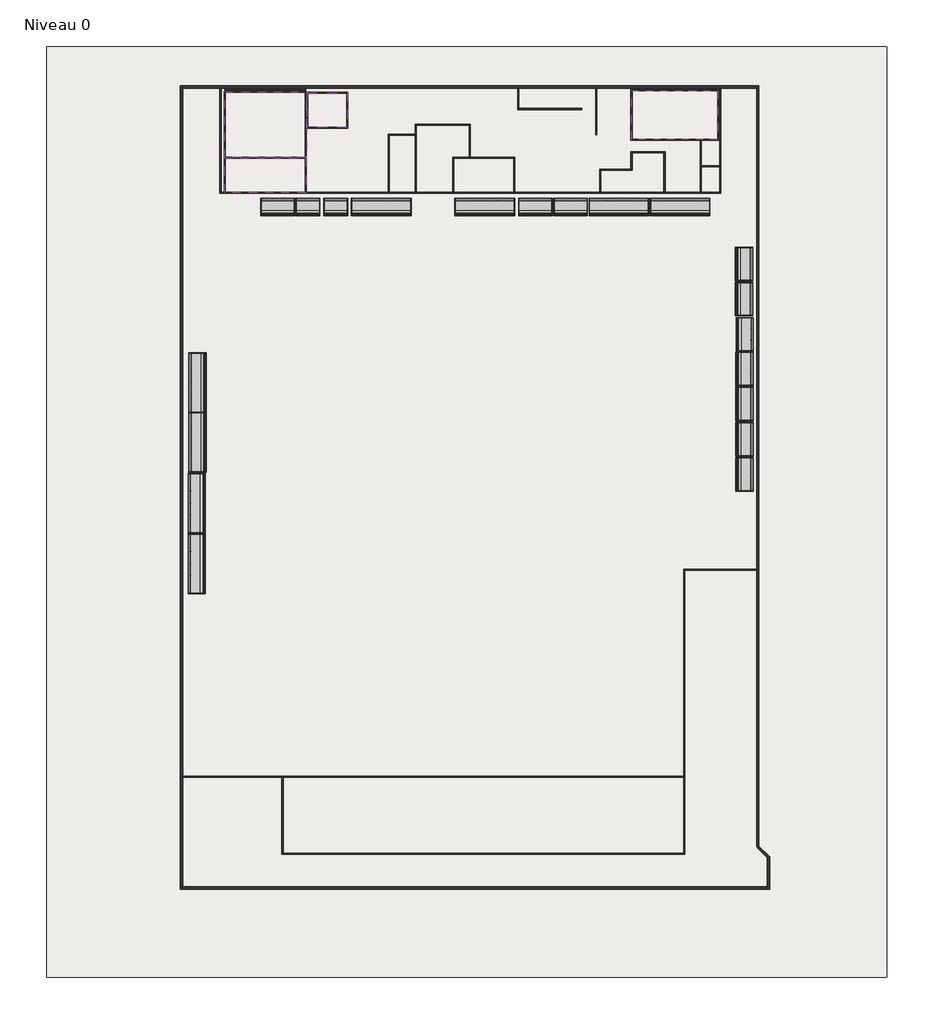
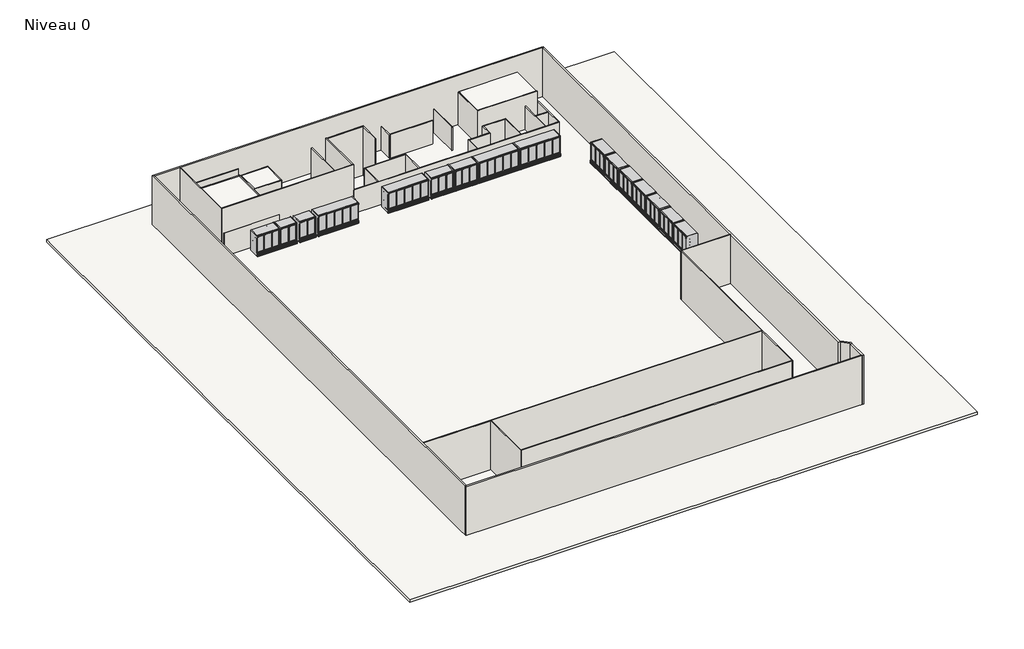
# One storey: 47 walls, 20 proxies, 5 slabs.
"""IFC4 building model written with IfcOpenShell, lengths in millimetres."""

from ifc_helpers import new_model, si_unit, frame, origin, origin_with_axes, place, context, project, spatial, polyline, outline, extrude, faceted_brep, transform, mapped, element, save
from components import proxy_1575mm_f0578ba2, proxy_2200mm_2b634e71, longueur_3910_mm_16bd9117

model = new_model("IFC4")

# Units and contexts
model_context = context("Model", 3, world=origin())
ifc_project = project(units=[si_unit("LENGTHUNIT", "METRE", prefix="MILLI")], contexts=[model_context])

# Site, building, storey
site = spatial("IfcSite", under=ifc_project)
building = spatial("IfcBuilding", under=site)
storey = spatial("IfcBuildingStorey", under=building, Name="Niveau 0", Elevation=0.0)

# Proxies
placement = place(None, origin())
proxy_1575mm_shape = proxy_1575mm_f0578ba2(model_context)
element("IfcBuildingElementProxy", 1, Name="Congélateur - Vertical deux portes : 1575mm", ObjectType="Congélateur - Vertical deux portes : 1575mm", at=placement, inside=storey, context=model_context, shape_type="MappedRepresentation", body=[
    mapped(proxy_1575mm_shape, transform((8034.4232046, -1064.6869778, 0.0), x_axis=(1.0, 0.0, 0.0), y_axis=(0.0, 1.0, 0.0), z_axis=(0.0, 0.0, 1.0))),
])
element("IfcBuildingElementProxy", 2, Name="Congélateur - Vertical deux portes : 1575mm", ObjectType="Congélateur - Vertical deux portes : 1575mm", at=placement, inside=storey, context=model_context, shape_type="MappedRepresentation", body=[
    mapped(proxy_1575mm_shape, transform((6208.3544836, -1064.6869758, 0.0), x_axis=(1.0, 0.0, 0.0), y_axis=(0.0, 1.0, 0.0), z_axis=(0.0, 0.0, 1.0))),
])
proxy_2200mm_shape = proxy_2200mm_2b634e71(model_context)
element("IfcBuildingElementProxy", 3, Name="Congélateur - Vertical trois portes : 2200mm", ObjectType="Congélateur - Vertical trois portes : 2200mm", at=placement, inside=storey, context=model_context, shape_type="MappedRepresentation", body=[
    mapped(proxy_2200mm_shape, transform((32875.5981916, -5951.7723901, 0.0), x_axis=(0.0, -1.0, 0.0), y_axis=(1.0, 0.0, 0.0), z_axis=(0.0, 0.0, 1.0))),
])
element("IfcBuildingElementProxy", 4, Name="Congélateur - Vertical trois portes : 2200mm", ObjectType="Congélateur - Vertical trois portes : 2200mm", at=placement, inside=storey, context=model_context, shape_type="MappedRepresentation", body=[
    mapped(proxy_2200mm_shape, transform((32875.5981916, -8240.2723901, 0.0), x_axis=(0.0, -1.0, 0.0), y_axis=(1.0, 0.0, 0.0), z_axis=(0.0, 0.0, 1.0))),
])
element("IfcBuildingElementProxy", 5, Name="Congélateur - Vertical trois portes : 2200mm", ObjectType="Congélateur - Vertical trois portes : 2200mm", at=placement, inside=storey, context=model_context, shape_type="MappedRepresentation", body=[
    mapped(proxy_2200mm_shape, transform((32921.8645864, -10558.1573992, 0.0), x_axis=(0.0, -1.0, 0.0), y_axis=(1.0, 0.0, 0.0), z_axis=(0.0, 0.0, 1.0))),
])
element("IfcBuildingElementProxy", 6, Name="Congélateur - Vertical trois portes : 2200mm", ObjectType="Congélateur - Vertical trois portes : 2200mm", at=placement, inside=storey, context=model_context, shape_type="MappedRepresentation", body=[
    mapped(proxy_2200mm_shape, transform((32915.8645864, -15092.8416299, 0.0), x_axis=(0.0, -1.0, 0.0), y_axis=(1.0, 0.0, 0.0), z_axis=(0.0, 0.0, 1.0))),
])
element("IfcBuildingElementProxy", 7, Name="Congélateur - Vertical trois portes : 2200mm", ObjectType="Congélateur - Vertical trois portes : 2200mm", at=placement, inside=storey, context=model_context, shape_type="MappedRepresentation", body=[
    mapped(proxy_2200mm_shape, transform((32915.8645864, -12814.4781323, 0.0), x_axis=(0.0, -1.0, 0.0), y_axis=(1.0, 0.0, 0.0), z_axis=(0.0, 0.0, 1.0))),
])
element("IfcBuildingElementProxy", 8, Name="Congélateur - Vertical trois portes : 2200mm", ObjectType="Congélateur - Vertical trois portes : 2200mm", at=placement, inside=storey, context=model_context, shape_type="MappedRepresentation", body=[
    mapped(proxy_2200mm_shape, transform((32915.8645864, -17418.5313334, 0.0), x_axis=(0.0, -1.0, 0.0), y_axis=(1.0, 0.0, 0.0), z_axis=(0.0, 0.0, 1.0))),
])
element("IfcBuildingElementProxy", 9, Name="Congélateur - Vertical trois portes : 2200mm", ObjectType="Congélateur - Vertical trois portes : 2200mm", at=placement, inside=storey, context=model_context, shape_type="MappedRepresentation", body=[
    mapped(proxy_2200mm_shape, transform((32915.8645864, -19716.8178381, 0.0), x_axis=(0.0, -1.0, 0.0), y_axis=(1.0, 0.0, 0.0), z_axis=(0.0, 0.0, 1.0))),
])
element("IfcBuildingElementProxy", 10, Name="Congélateur - Vertical trois portes : 2200mm", ObjectType="Congélateur - Vertical trois portes : 2200mm", at=placement, inside=storey, context=model_context, shape_type="MappedRepresentation", body=[
    mapped(proxy_2200mm_shape, transform((23689.1026583, -1064.6869758, 0.0), x_axis=(1.0, 0.0, 0.0), y_axis=(0.0, 1.0, 0.0), z_axis=(0.0, 0.0, 1.0))),
])
element("IfcBuildingElementProxy", 11, Name="Congélateur - Vertical trois portes : 2200mm", ObjectType="Congélateur - Vertical trois portes : 2200mm", at=placement, inside=storey, context=model_context, shape_type="MappedRepresentation", body=[
    mapped(proxy_2200mm_shape, transform((21385.1798447, -1064.6869758, 0.0), x_axis=(1.0, 0.0, 0.0), y_axis=(0.0, 1.0, 0.0), z_axis=(0.0, 0.0, 1.0))),
])
element("IfcBuildingElementProxy", 12, Name="Congélateur - Vertical trois portes : 2200mm", ObjectType="Congélateur - Vertical trois portes : 2200mm", at=placement, inside=storey, context=model_context, shape_type="MappedRepresentation", body=[
    mapped(proxy_2200mm_shape, transform((4533.5273713, -1064.6869758, 0.0), x_axis=(1.0, 0.0, 0.0), y_axis=(0.0, 1.0, 0.0), z_axis=(0.0, 0.0, 1.0))),
])
longueur_3910_mm_shape = longueur_3910_mm_16bd9117(model_context)
element("IfcBuildingElementProxy", 13, Name="Congélateur - Vertical cinq portes : Longueur 3910 mm", ObjectType="Congélateur - Vertical cinq portes : Longueur 3910 mm", at=placement, inside=storey, context=model_context, shape_type="MappedRepresentation", body=[
    mapped(longueur_3910_mm_shape, transform((-1869.6602284, -14604.1311112, 0.0), x_axis=(0.0, 1.0, 0.0), y_axis=(-1.0, 0.0, 0.0), z_axis=(0.0, 0.0, 1.0))),
])
element("IfcBuildingElementProxy", 14, Name="Congélateur - Vertical cinq portes : Longueur 3910 mm", ObjectType="Congélateur - Vertical cinq portes : Longueur 3910 mm", at=placement, inside=storey, context=model_context, shape_type="MappedRepresentation", body=[
    mapped(longueur_3910_mm_shape, transform((-1916.6602284, -22549.1311112, 0.0), x_axis=(0.0, 1.0, 0.0), y_axis=(-1.0, 0.0, 0.0), z_axis=(0.0, 0.0, 1.0))),
])
element("IfcBuildingElementProxy", 15, Name="Congélateur - Vertical cinq portes : Longueur 3910 mm", ObjectType="Congélateur - Vertical cinq portes : Longueur 3910 mm", at=placement, inside=storey, context=model_context, shape_type="MappedRepresentation", body=[
    mapped(longueur_3910_mm_shape, transform((-1916.6602284, -18599.1311112, 0.0), x_axis=(0.0, 1.0, 0.0), y_axis=(-1.0, 0.0, 0.0), z_axis=(0.0, 0.0, 1.0))),
])
element("IfcBuildingElementProxy", 16, Name="Congélateur - Vertical cinq portes : Longueur 3910 mm", ObjectType="Congélateur - Vertical cinq portes : Longueur 3910 mm", at=placement, inside=storey, context=model_context, shape_type="MappedRepresentation", body=[
    mapped(longueur_3910_mm_shape, transform((-1869.6602284, -10699.1311112, 0.0), x_axis=(0.0, 1.0, 0.0), y_axis=(-1.0, 0.0, 0.0), z_axis=(0.0, 0.0, 1.0))),
])
element("IfcBuildingElementProxy", 17, Name="Congélateur - Vertical cinq portes : Longueur 3910 mm", ObjectType="Congélateur - Vertical cinq portes : Longueur 3910 mm", at=placement, inside=storey, context=model_context, shape_type="MappedRepresentation", body=[
    mapped(longueur_3910_mm_shape, transform((30544.9984916, -1064.6869758, 0.0), x_axis=(1.0, 0.0, 0.0), y_axis=(0.0, 1.0, 0.0), z_axis=(0.0, 0.0, 1.0))),
])
element("IfcBuildingElementProxy", 18, Name="Congélateur - Vertical cinq portes : Longueur 3910 mm", ObjectType="Congélateur - Vertical cinq portes : Longueur 3910 mm", at=placement, inside=storey, context=model_context, shape_type="MappedRepresentation", body=[
    mapped(longueur_3910_mm_shape, transform((26548.4984916, -1064.6869758, 0.0), x_axis=(1.0, 0.0, 0.0), y_axis=(0.0, 1.0, 0.0), z_axis=(0.0, 0.0, 1.0))),
])
element("IfcBuildingElementProxy", 19, Name="Congélateur - Vertical cinq portes : Longueur 3910 mm", ObjectType="Congélateur - Vertical cinq portes : Longueur 3910 mm", at=placement, inside=storey, context=model_context, shape_type="MappedRepresentation", body=[
    mapped(longueur_3910_mm_shape, transform((11000.4232046, -1064.6869778, 0.0), x_axis=(1.0, 0.0, 0.0), y_axis=(0.0, 1.0, 0.0), z_axis=(0.0, 0.0, 1.0))),
])
element("IfcBuildingElementProxy", 20, Name="Congélateur - Vertical cinq portes : Longueur 3910 mm", ObjectType="Congélateur - Vertical cinq portes : Longueur 3910 mm", at=placement, inside=storey, context=model_context, shape_type="MappedRepresentation", body=[
    mapped(longueur_3910_mm_shape, transform((17773.4984916, -1064.6869758, 0.0), x_axis=(1.0, 0.0, 0.0), y_axis=(0.0, 1.0, 0.0), z_axis=(0.0, 0.0, 1.0))),
])

# Slabs
element("IfcSlab", 21, ObjectType="Dalle en béton - 80 mm", at=placement, inside=storey, context=model_context, shape_type="SweptSolid", body=[
    extrude(outline(polyline([(4762.9230743, 6961.0293187), (4762.9230743, 2664.8498995), (-582.5231103, 2664.8498995), (-582.5231103, 6961.0293187), (4762.9230743, 6961.0293187)])), frame((0.0, 0.0, 2320.0), z_axis=(0.0, 0.0, 1.0), x_axis=(1.0, 0.0, 0.0)), (0.0, 0.0, 1.0), 80.0),
])
element("IfcSlab", 22, ObjectType="Dalle en béton - 80 mm", at=placement, inside=storey, context=model_context, shape_type="SweptSolid", body=[
    extrude(outline(polyline([(4704.4778591, 2659.1504551), (4704.4778591, 350.3825602), (-595.5221409, 350.3825602), (-595.5221409, 2659.1504551), (4704.4778591, 2659.1504551)])), frame((0.0, 0.0, 2320.0), z_axis=(0.0, 0.0, 1.0), x_axis=(1.0, 0.0, 0.0)), (0.0, 0.0, 1.0), 80.0),
])
element("IfcSlab", 23, ObjectType="Dalle en béton - 80 mm", at=placement, inside=storey, context=model_context, shape_type="SweptSolid", body=[
    extrude(outline(polyline([(7436.8357351, 6906.9869007), (7436.8357351, 4649.8547692), (4783.9895416, 4649.8547692), (4783.9895416, 6906.9869007), (7436.8357351, 6906.9869007)])), frame((0.0, 0.0, 2320.0), z_axis=(0.0, 0.0, 1.0), x_axis=(1.0, 0.0, 0.0)), (0.0, 0.0, 1.0), 80.0),
])
element("IfcSlab", 24, ObjectType="Dalle en béton - 80 mm", at=placement, inside=storey, context=model_context, shape_type="SweptSolid", body=[
    extrude(outline(polyline([(31650.7937625, 7022.1870376), (31650.7937625, 3858.9462887), (26024.789803, 3858.9462887), (26024.789803, 7022.1870376), (31650.7937625, 7022.1870376)])), frame((0.0, 0.0, 3420.0), z_axis=(0.0, 0.0, 1.0), x_axis=(1.0, 0.0, 0.0)), (0.0, 0.0, 1.0), 80.0),
])
element("IfcSlab", 25, ObjectType="Dalle en béton - 250 mm", at=placement, inside=storey, context=model_context, shape_type="SweptSolid", body=[
    extrude(outline(polyline([(42723.8258446, 9921.1519694), (42723.8258446, -50960.7470362), (-12240.8928045, -50960.7470362), (-12240.8928045, 9921.1519694), (42723.8258446, 9921.1519694)])), frame((0.0, 0.0, -250.0), z_axis=(0.0, 0.0, 1.0), x_axis=(1.0, 0.0, 0.0)), (0.0, 0.0, 1.0), 250.0),
])

# Walls
element("IfcWall", 26, ObjectType="Générique - Int. 70 mm", at=placement, inside=storey, context=model_context, shape_type="Brep", body=[
    faceted_brep([(4781.8357336, 6871.9869007, 0.0), (4851.8357336, 6871.9869007, 0.0), (7401.8357351, 6871.9869007, 0.0), (7471.8357351, 6871.9869007, 0.0), (7471.8357351, 6871.9869007, 2400.0), (7401.8357351, 6871.9869007, 2400.0), (4851.8357336, 6871.9869007, 2400.0), (4781.8357336, 6871.9869007, 2400.0), (4781.8357336, 6941.9869007, 0.0), (4781.8357336, 6941.9869007, 2400.0), (7471.8357351, 6941.9869007, 2400.0), (7471.8357351, 6941.9869007, 0.0)], [[[0, 1, 2, 3, 4, 5, 6, 7]], [[8, 9, 10, 11]], [[3, 2, 1, 0, 8, 11]], [[7, 6, 5, 4, 10, 9]], [[4, 3, 11, 10]], [[0, 7, 9, 8]]]),
])
element("IfcWall", 27, ObjectType="Générique - Int. 70 mm", at=placement, inside=storey, context=model_context, shape_type="Brep", body=[
    faceted_brep([(7401.8357351, 6871.9869007, 0.0), (7401.8357351, 4658.2700819, 0.0), (7401.8357351, 4588.2700819, 0.0), (7401.8357351, 4588.2700819, 2400.0), (7401.8357351, 4658.2700819, 2400.0), (7401.8357351, 6871.9869007, 2400.0), (7471.8357351, 6871.9869007, 0.0), (7471.8357351, 6871.9869007, 2400.0), (7471.8357351, 4588.2700819, 2400.0), (7471.8357351, 4588.2700819, 0.0)], [[[0, 1, 2, 3, 4, 5]], [[6, 7, 8, 9]], [[2, 1, 0, 6, 9]], [[5, 4, 3, 8, 7]], [[0, 5, 7, 6]], [[3, 2, 9, 8]]]),
])
element("IfcWall", 28, ObjectType="Générique - Int. 70 mm", at=placement, inside=storey, context=model_context, shape_type="Brep", body=[
    faceted_brep([(7401.8357351, 4658.2700819, 0.0), (4851.8357336, 4658.2700819, 0.0), (4781.8357336, 4658.2700819, 0.0), (4781.8357336, 4658.2700819, 2400.0), (4851.8357336, 4658.2700819, 2400.0), (7401.8357351, 4658.2700819, 2400.0), (7401.8357351, 4588.2700819, 0.0), (7401.8357351, 4588.2700819, 2400.0), (4781.8357336, 4588.2700819, 2400.0), (4781.8357336, 4588.2700819, 0.0)], [[[0, 1, 2, 3, 4, 5]], [[6, 7, 8, 9]], [[2, 1, 0, 6, 9]], [[5, 4, 3, 8, 7]], [[0, 5, 7, 6]], [[3, 2, 9, 8]]]),
])
element("IfcWall", 29, ObjectType="Générique - Int. 70 mm", at=placement, inside=storey, context=model_context, shape_type="SweptSolid", body=[
    extrude(outline(polyline([(4851.8357336, 6871.9869007), (4851.8357336, 4658.2700819), (4781.8357336, 4658.2700819), (4781.8357336, 6871.9869007), (4851.8357336, 6871.9869007)])), origin_with_axes(), (0.0, 0.0, 1.0), 2400.0),
])
element("IfcWall", 30, ObjectType="Générique - Ext. 150 mm", at=placement, inside=storey, context=model_context, shape_type="Brep", body=[
    faceted_brep([(34191.4818514, 7357.9869007, 0.0), (34191.4818514, 7207.9869007, 0.0), (34191.4818514, -42428.4030431, 0.0), (34191.4818514, -42428.4030431, 5000.0), (34191.4818514, 7207.9869007, 5000.0), (34191.4818514, 7357.9869007, 5000.0), (34341.4818514, 7357.9869007, 0.0), (34341.4818514, 7357.9869007, 5000.0), (34341.4818514, 7207.9869007, 5000.0), (34341.4818514, -42366.2710087, 5000.0), (34341.4818514, -42578.4030431, 5000.0), (34341.4818514, -42578.4030431, 0.0), (34341.4818514, -42366.2710087, 0.0)], [[[0, 1, 2, 3, 4, 5]], [[6, 7, 8, 9, 10, 11, 12]], [[2, 1, 0, 6, 12, 11]], [[3, 2, 11, 10]], [[0, 5, 7, 6]], [[5, 4, 8, 7]], [[4, 3, 10, 9, 8]]]),
])
element("IfcWall", 31, ObjectType="Générique - Ext. 150 mm", at=placement, inside=storey, context=model_context, shape_type="Brep", body=[
    faceted_brep([(34341.4818514, -42578.4030431, 0.0), (34898.5886326, -43135.5098242, 0.0), (35048.5886326, -43285.5098242, 0.0), (35048.5886326, -43285.5098242, 5000.0), (34898.5886326, -43135.5098242, 5000.0), (34343.774089, -42580.6952807, 5000.0), (34341.4818514, -42578.4030431, 5000.0), (34341.4818514, -42366.2710087, 0.0), (34341.4818514, -42366.2710087, 5000.0), (34343.774089, -42368.5632464, 5000.0), (35048.5886326, -43073.3777899, 5000.0), (35048.5886326, -43073.3777899, 0.0)], [[[0, 1, 2, 3, 4, 5, 6]], [[7, 8, 9, 10, 11]], [[2, 1, 0, 7, 11]], [[0, 6, 8, 7]], [[3, 2, 11, 10]], [[5, 4, 3, 10, 9]], [[6, 5, 9, 8]]]),
])
element("IfcWall", 32, ObjectType="Générique - Ext. 150 mm", at=placement, inside=storey, context=model_context, shape_type="Brep", body=[
    faceted_brep([(34898.5886326, -43135.5098242, 0.0), (34898.5886326, -45029.4438071, 0.0), (34898.5886326, -45179.4438071, 0.0), (34898.5886326, -45179.4438071, 5000.0), (34898.5886326, -45029.4438071, 5000.0), (34898.5886326, -43135.5098242, 5000.0), (35048.5886326, -43285.5098242, 0.0), (35048.5886326, -43285.5098242, 5000.0), (35048.5886326, -45179.4438071, 5000.0), (35048.5886326, -45179.4438071, 0.0)], [[[0, 1, 2, 3, 4, 5]], [[6, 7, 8, 9]], [[2, 1, 0, 6, 9]], [[5, 4, 3, 8, 7]], [[0, 5, 7, 6]], [[3, 2, 9, 8]]]),
])
element("IfcWall", 33, ObjectType="Générique - Ext. 150 mm", at=placement, inside=storey, context=model_context, shape_type="Brep", body=[
    faceted_brep([(34898.5886326, -45029.4438071, 0.0), (-3335.5221409, -45029.4438071, 0.0), (-3485.5221409, -45029.4438071, 0.0), (-3485.5221409, -45029.4438071, 5000.0), (-3335.5221409, -45029.4438071, 5000.0), (34898.5886326, -45029.4438071, 5000.0), (34898.5886326, -45179.4438071, 0.0), (34898.5886326, -45179.4438071, 5000.0), (-3485.5221409, -45179.4438071, 5000.0), (-3485.5221409, -45179.4438071, 0.0)], [[[0, 1, 2, 3, 4, 5]], [[6, 7, 8, 9]], [[2, 1, 0, 6, 9]], [[5, 4, 3, 8, 7]], [[0, 5, 7, 6]], [[3, 2, 9, 8]]]),
])
element("IfcWall", 34, ObjectType="Générique - Ext. 150 mm", at=placement, inside=storey, context=model_context, shape_type="Brep", body=[
    faceted_brep([(-3335.5221409, -45029.4438071, 0.0), (-3335.5221409, 7207.9869007, 0.0), (-3335.5221409, 7357.9869007, 0.0), (-3335.5221409, 7357.9869007, 5000.0), (-3335.5221409, 7207.9869007, 5000.0), (-3335.5221409, -45029.4438071, 5000.0), (-3485.5221409, -45029.4438071, 0.0), (-3485.5221409, -45029.4438071, 5000.0), (-3485.5221409, 7357.9869007, 5000.0), (-3485.5221409, 7357.9869007, 0.0)], [[[0, 1, 2, 3, 4, 5]], [[6, 7, 8, 9]], [[2, 1, 0, 6, 9]], [[5, 4, 3, 8, 7]], [[0, 5, 7, 6]], [[3, 2, 9, 8]]]),
])
element("IfcWall", 35, ObjectType="Générique - Int. 70 mm", at=placement, inside=storey, context=model_context, shape_type="SweptSolid", body=[
    extrude(outline(polyline([(4704.4778591, 7091.9869007), (-595.5221409, 7091.9869007), (-595.5221409, 7161.9869007), (4704.4778591, 7161.9869007), (4704.4778591, 7091.9869007)])), origin_with_axes(), (0.0, 0.0, 1.0), 3000.0),
])
element("IfcWall", 36, ObjectType="Générique - Int. 70 mm", at=placement, inside=storey, context=model_context, shape_type="Brep", body=[
    faceted_brep([(4669.4778591, 6926.0293187, 0.0), (4669.4778591, 2694.1504551, 0.0), (4669.4778591, 2624.1504551, 0.0), (4669.4778591, 385.3825602, 0.0), (4669.4778591, 385.3825602, 2400.0), (4669.4778591, 2624.1504551, 2400.0), (4669.4778591, 2694.1504551, 2400.0), (4669.4778591, 6926.0293187, 2400.0), (4739.4778591, 6926.0293187, 0.0), (4739.4778591, 6926.0293187, 2400.0), (4739.4778591, 385.3825602, 2400.0), (4739.4778591, 385.3825602, 0.0)], [[[0, 1, 2, 3, 4, 5, 6, 7]], [[8, 9, 10, 11]], [[3, 2, 1, 0, 8, 11]], [[7, 6, 5, 4, 10, 9]], [[0, 7, 9, 8]], [[4, 3, 11, 10]]]),
])
element("IfcWall", 37, ObjectType="Générique - Int. 70 mm", at=placement, inside=storey, context=model_context, shape_type="SweptSolid", body=[
    extrude(outline(polyline([(-560.5221409, 2694.1504551), (4669.4778591, 2694.1504551), (4669.4778591, 2624.1504551), (-560.5221409, 2624.1504551), (-560.5221409, 2694.1504551)])), origin_with_axes(), (0.0, 0.0, 1.0), 2400.0),
])
element("IfcWall", 38, ObjectType="Générique - Int. 70 mm", at=placement, inside=storey, context=model_context, shape_type="Brep", body=[
    faceted_brep([(4739.4778591, 6996.0293187, 0.0), (-560.5221409, 6996.0293187, 0.0), (-560.5221409, 6996.0293187, 2400.0), (4739.4778591, 6996.0293187, 2400.0), (4739.4778591, 6926.0293187, 0.0), (4739.4778591, 6926.0293187, 2400.0), (4669.4778591, 6926.0293187, 2400.0), (-560.5221409, 6926.0293187, 2400.0), (-560.5221409, 6926.0293187, 0.0), (4669.4778591, 6926.0293187, 0.0)], [[[0, 1, 2, 3]], [[4, 5, 6, 7, 8, 9]], [[1, 0, 4, 9, 8]], [[3, 2, 7, 6, 5]], [[2, 1, 8, 7]], [[0, 3, 5, 4]]]),
])
element("IfcWall", 39, ObjectType="Générique - Int. 70 mm", at=placement, inside=storey, context=model_context, shape_type="Brep", body=[
    faceted_brep([(-630.5221409, 6996.0293187, 0.0), (-630.5221409, 315.3825602, 0.0), (-630.5221409, 315.3825602, 2400.0), (-630.5221409, 6996.0293187, 2400.0), (-560.5221409, 6996.0293187, 0.0), (-560.5221409, 6996.0293187, 2400.0), (-560.5221409, 6926.0293187, 2400.0), (-560.5221409, 2694.1504551, 2400.0), (-560.5221409, 2624.1504551, 2400.0), (-560.5221409, 385.3825602, 2400.0), (-560.5221409, 315.3825602, 2400.0), (-560.5221409, 315.3825602, 0.0), (-560.5221409, 385.3825602, 0.0), (-560.5221409, 2624.1504551, 0.0), (-560.5221409, 2694.1504551, 0.0), (-560.5221409, 6926.0293187, 0.0)], [[[0, 1, 2, 3]], [[4, 5, 6, 7, 8, 9, 10, 11, 12, 13, 14, 15]], [[1, 0, 4, 15, 14, 13, 12, 11]], [[3, 2, 10, 9, 8, 7, 6, 5]], [[0, 3, 5, 4]], [[2, 1, 11, 10]]]),
])
element("IfcWall", 40, ObjectType="Générique - Ext. 150 mm", at=placement, inside=storey, context=model_context, shape_type="SweptSolid", body=[
    extrude(outline(polyline([(34191.4818514, 7207.9869007), (-3335.5221409, 7207.9869007), (-3335.5221409, 7357.9869007), (34191.4818514, 7357.9869007), (34191.4818514, 7207.9869007)])), origin_with_axes(), (0.0, 0.0, 1.0), 5000.0),
])
element("IfcWall", 41, ObjectType="Générique - Int. 70 mm", at=placement, inside=storey, context=model_context, shape_type="Brep", body=[
    faceted_brep([(-560.5221409, 315.3825602, 0.0), (4739.4778591, 315.3825602, 0.0), (4739.4778591, 315.3825602, 2400.0), (-560.5221409, 315.3825602, 2400.0), (-560.5221409, 385.3825602, 0.0), (-560.5221409, 385.3825602, 2400.0), (4669.4778591, 385.3825602, 2400.0), (4739.4778591, 385.3825602, 2400.0), (4739.4778591, 385.3825602, 0.0), (4669.4778591, 385.3825602, 0.0)], [[[0, 1, 2, 3]], [[4, 5, 6, 7, 8, 9]], [[1, 0, 4, 9, 8]], [[3, 2, 7, 6, 5]], [[0, 3, 5, 4]], [[2, 1, 8, 7]]]),
])
element("IfcWall", 42, ObjectType="Générique - Int. 70 mm", at=placement, inside=storey, context=model_context, shape_type="Brep", body=[
    faceted_brep([(10171.6921207, 385.3825602, 0.0), (10171.6921207, 4130.5786628, 0.0), (10171.6921207, 4200.5786628, 0.0), (10171.6921207, 4200.5786628, 2400.0), (10171.6921207, 4200.5786628, 5000.0), (10171.6921207, 385.3825602, 5000.0), (10101.6921207, 385.3825602, 0.0), (10101.6921207, 385.3825602, 5000.0), (10101.6921207, 4200.5786628, 5000.0), (10101.6921207, 4200.5786628, 0.0)], [[[0, 1, 2, 3, 4, 5]], [[6, 7, 8, 9]], [[2, 1, 0, 6, 9]], [[5, 4, 8, 7]], [[4, 3, 2, 9, 8]], [[0, 5, 7, 6]]]),
])
element("IfcWall", 43, ObjectType="Générique - Int. 70 mm", at=placement, inside=storey, context=model_context, shape_type="SweptSolid", body=[
    extrude(outline(polyline([(11869.4012391, 4130.5786628), (10171.6921207, 4130.5786628), (10171.6921207, 4200.5786628), (11869.4012391, 4200.5786628), (11869.4012391, 4130.5786628)])), origin_with_axes(), (0.0, 0.0, 1.0), 2400.0),
])
element("IfcWall", 44, ObjectType="Générique - Int. 70 mm", at=placement, inside=storey, context=model_context, shape_type="Brep", body=[
    faceted_brep([(-897.656034, 7207.9869007, 0.0), (-897.656034, 315.3825602, 0.0), (-897.656034, 315.3825602, 5000.0), (-897.656034, 7207.9869007, 5000.0), (-827.656034, 7207.9869007, 0.0), (-827.656034, 7207.9869007, 5000.0), (-827.656034, 385.3825602, 5000.0), (-827.656034, 315.3825602, 5000.0), (-827.656034, 315.3825602, 0.0), (-827.656034, 385.3825602, 0.0)], [[[0, 1, 2, 3]], [[4, 5, 6, 7, 8, 9]], [[1, 0, 4, 9, 8]], [[3, 2, 7, 6, 5]], [[0, 3, 5, 4]], [[2, 1, 8, 7]]]),
])
element("IfcWall", 45, ObjectType="Générique - Int. 70 mm", at=placement, inside=storey, context=model_context, shape_type="Brep", body=[
    faceted_brep([(-827.656034, 315.3825602, 0.0), (11939.4012391, 315.3825602, 0.0), (11939.4012391, 315.3825602, 2400.0), (11939.4012391, 315.3825602, 5000.0), (-827.656034, 315.3825602, 5000.0), (-827.656034, 385.3825602, 0.0), (-827.656034, 385.3825602, 5000.0), (10101.6921207, 385.3825602, 5000.0), (10171.6921207, 385.3825602, 5000.0), (11869.4012391, 385.3825602, 5000.0), (11939.4012391, 385.3825602, 5000.0), (11939.4012391, 385.3825602, 2400.0), (11939.4012391, 385.3825602, 0.0), (11869.4012391, 385.3825602, 0.0), (10171.6921207, 385.3825602, 0.0), (10101.6921207, 385.3825602, 0.0)], [[[0, 1, 2, 3, 4]], [[5, 6, 7, 8, 9, 10, 11, 12, 13, 14, 15]], [[1, 0, 5, 15, 14, 13, 12]], [[4, 3, 10, 9, 8, 7, 6]], [[0, 4, 6, 5]], [[1, 12, 11, 10, 3, 2]]]),
])
element("IfcWall", 46, ObjectType="Générique - Int. 70 mm", at=placement, inside=storey, context=model_context, shape_type="Brep", body=[
    faceted_brep([(11939.4012391, 385.3825602, 5000.0), (11939.4012391, 385.3825602, 0.0), (11939.4012391, 4770.8605197, 0.0), (11939.4012391, 4840.8605197, 0.0), (11939.4012391, 4840.8605197, 5000.0), (11939.4012391, 4770.8605197, 5000.0), (11869.4012391, 385.3825602, 0.0), (11869.4012391, 385.3825602, 5000.0), (11869.4012391, 4840.8605197, 5000.0), (11869.4012391, 4840.8605197, 0.0), (11869.4012391, 4200.5786628, 0.0), (11869.4012391, 4130.5786628, 0.0)], [[[0, 1, 2, 3, 4, 5]], [[6, 7, 8, 9, 10, 11]], [[3, 2, 1, 6, 11, 10, 9]], [[0, 5, 4, 8, 7]], [[4, 3, 9, 8]], [[0, 7, 6, 1]]]),
])
element("IfcWall", 47, ObjectType="Générique - Int. 70 mm", at=placement, inside=storey, context=model_context, shape_type="Brep", body=[
    faceted_brep([(11939.4012391, 4770.8605197, 0.0), (15407.3618166, 4770.8605197, 0.0), (15477.3618166, 4770.8605197, 0.0), (15477.3618166, 4770.8605197, 5000.0), (15407.3618166, 4770.8605197, 5000.0), (11939.4012391, 4770.8605197, 5000.0), (11939.4012391, 4840.8605197, 0.0), (11939.4012391, 4840.8605197, 5000.0), (15477.3618166, 4840.8605197, 5000.0), (15477.3618166, 4840.8605197, 0.0)], [[[0, 1, 2, 3, 4, 5]], [[6, 7, 8, 9]], [[2, 1, 0, 6, 9]], [[5, 4, 3, 8, 7]], [[0, 5, 7, 6]], [[3, 2, 9, 8]]]),
])
element("IfcWall", 48, ObjectType="Générique - Int. 70 mm", at=placement, inside=storey, context=model_context, shape_type="SweptSolid", body=[
    extrude(outline(polyline([(15407.3618166, 2694.1504551), (15407.3618166, 4770.8605197), (15477.3618166, 4770.8605197), (15477.3618166, 2694.1504551), (15407.3618166, 2694.1504551)])), origin_with_axes(), (0.0, 0.0, 1.0), 5000.0),
])
element("IfcWall", 49, ObjectType="Générique - Int. 70 mm", at=placement, inside=storey, context=model_context, shape_type="Brep", body=[
    faceted_brep([(11939.4012391, 315.3825602, 0.0), (31867.3467757, 315.3825602, 0.0), (31867.3467757, 315.3825602, 2400.0), (11939.4012391, 315.3825602, 2400.0), (11939.4012391, 385.3825602, 0.0), (11939.4012391, 385.3825602, 2400.0), (14318.4222727, 385.3825602, 2400.0), (14388.4222727, 385.3825602, 2400.0), (18301.7420196, 385.3825602, 2400.0), (18371.7420196, 385.3825602, 2400.0), (23940.0098006, 385.3825602, 2400.0), (24010.0098006, 385.3825602, 2400.0), (28136.6427592, 385.3825602, 2400.0), (28206.6427592, 385.3825602, 2400.0), (30519.9080622, 385.3825602, 2400.0), (30589.9080622, 385.3825602, 2400.0), (31797.3467757, 385.3825602, 2400.0), (31867.3467757, 385.3825602, 2400.0), (31867.3467757, 385.3825602, 0.0), (31797.3467757, 385.3825602, 0.0), (30589.9080622, 385.3825602, 0.0), (30519.9080622, 385.3825602, 0.0), (28206.6427592, 385.3825602, 0.0), (28136.6427592, 385.3825602, 0.0), (24010.0098006, 385.3825602, 0.0), (23940.0098006, 385.3825602, 0.0), (18371.7420196, 385.3825602, 0.0), (18301.7420196, 385.3825602, 0.0), (14388.4222727, 385.3825602, 0.0), (14318.4222727, 385.3825602, 0.0)], [[[0, 1, 2, 3]], [[4, 5, 6, 7, 8, 9, 10, 11, 12, 13, 14, 15, 16, 17, 18, 19, 20, 21, 22, 23, 24, 25, 26, 27, 28, 29]], [[1, 0, 4, 29, 28, 27, 26, 25, 24, 23, 22, 21, 20, 19, 18]], [[3, 2, 17, 16, 15, 14, 13, 12, 11, 10, 9, 8, 7, 6, 5]], [[0, 3, 5, 4]], [[2, 1, 18, 17]]]),
])
element("IfcWall", 50, ObjectType="Générique - Int. 70 mm", at=placement, inside=storey, context=model_context, shape_type="Brep", body=[
    faceted_brep([(31867.3467757, 385.3825602, 0.0), (31867.3467757, 7207.9869007, 0.0), (31867.3467757, 7207.9869007, 2400.0), (31867.3467757, 385.3825602, 2400.0), (31797.3467757, 385.3825602, 0.0), (31797.3467757, 385.3825602, 2400.0), (31797.3467757, 2066.5510206, 2400.0), (31797.3467757, 2136.5510206, 2400.0), (31797.3467757, 7207.9869007, 2400.0), (31797.3467757, 7207.9869007, 0.0), (31797.3467757, 2136.5510206, 0.0), (31797.3467757, 2066.5510206, 0.0)], [[[0, 1, 2, 3]], [[4, 5, 6, 7, 8, 9, 10, 11]], [[1, 0, 4, 11, 10, 9]], [[3, 2, 8, 7, 6, 5]], [[0, 3, 5, 4]], [[2, 1, 9, 8]]]),
])
element("IfcWall", 51, ObjectType="Générique - Int. 70 mm", at=placement, inside=storey, context=model_context, shape_type="Brep", body=[
    faceted_brep([(18371.7420196, 385.3825602, 0.0), (18371.7420196, 2694.1504551, 0.0), (18371.7420196, 2694.1504551, 2400.0), (18371.7420196, 385.3825602, 2400.0), (18301.7420196, 385.3825602, 0.0), (18301.7420196, 385.3825602, 2400.0), (18301.7420196, 2624.1504551, 2400.0), (18301.7420196, 2694.1504551, 2400.0), (18301.7420196, 2694.1504551, 0.0), (18301.7420196, 2624.1504551, 0.0)], [[[0, 1, 2, 3]], [[4, 5, 6, 7, 8, 9]], [[1, 0, 4, 9, 8]], [[3, 2, 7, 6, 5]], [[0, 3, 5, 4]], [[2, 1, 8, 7]]]),
])
element("IfcWall", 52, ObjectType="Générique - Int. 70 mm", at=placement, inside=storey, context=model_context, shape_type="Brep", body=[
    faceted_brep([(18301.7420196, 2694.1504551, 0.0), (15477.3618166, 2694.1504551, 0.0), (15407.3618166, 2694.1504551, 0.0), (14318.4222727, 2694.1504551, 0.0), (14318.4222727, 2694.1504551, 2400.0), (18301.7420196, 2694.1504551, 2400.0), (18301.7420196, 2624.1504551, 0.0), (18301.7420196, 2624.1504551, 2400.0), (14388.4222727, 2624.1504551, 2400.0), (14318.4222727, 2624.1504551, 2400.0), (14318.4222727, 2624.1504551, 0.0), (14388.4222727, 2624.1504551, 0.0)], [[[0, 1, 2, 3, 4, 5]], [[6, 7, 8, 9, 10, 11]], [[3, 2, 1, 0, 6, 11, 10]], [[5, 4, 9, 8, 7]], [[0, 5, 7, 6]], [[4, 3, 10, 9]]]),
])
element("IfcWall", 53, ObjectType="Générique - Int. 70 mm", at=placement, inside=storey, context=model_context, shape_type="SweptSolid", body=[
    extrude(outline(polyline([(14318.4222727, 385.3825602), (14318.4222727, 2624.1504551), (14388.4222727, 2624.1504551), (14388.4222727, 385.3825602), (14318.4222727, 385.3825602)])), origin_with_axes(), (0.0, 0.0, 1.0), 2400.0),
])
element("IfcWall", 54, ObjectType="Générique - Int. 70 mm", at=placement, inside=storey, context=model_context, shape_type="SweptSolid", body=[
    extrude(outline(polyline([(23672.4733516, 4165.5786628), (23672.4733516, 7207.9869007), (23742.4733516, 7207.9869007), (23742.4733516, 4165.5786628), (23672.4733516, 4165.5786628)])), origin_with_axes(), (0.0, 0.0, 1.0), 2400.0),
])
element("IfcWall", 55, ObjectType="Générique - Int. 70 mm", at=placement, inside=storey, context=model_context, shape_type="Brep", body=[
    faceted_brep([(25979.4794907, 7092.1870376, 0.0), (25979.4794907, 3851.6847304, 0.0), (25979.4794907, 3851.6847304, 3420.0), (25979.4794907, 3858.9462887, 3420.0), (25979.4794907, 7022.1870376, 3420.0), (25979.4794907, 7092.1870376, 3420.0), (26049.4794907, 7092.1870376, 0.0), (26049.4794907, 7092.1870376, 3420.0), (26049.4794907, 7022.1870376, 3420.0), (26049.4794907, 3858.9462887, 3420.0), (26049.4794907, 3851.6847304, 3420.0), (26049.4794907, 3851.6847304, 0.0), (26049.4794907, 7022.1870376, 0.0), (26024.789803, 3851.6847304, 3420.0), (26024.789803, 7092.1870376, 3420.0), (26024.789803, 3858.9462887, 3420.0), (26024.789803, 7022.1870376, 3420.0)], [[[0, 1, 2, 3, 4, 5]], [[6, 7, 8, 9, 10, 11, 12]], [[1, 0, 6, 12, 11]], [[2, 1, 11, 10, 13]], [[0, 5, 14, 7, 6]], [[13, 10, 9, 15]], [[3, 2, 13, 15]], [[8, 7, 14, 16]], [[4, 3, 15, 16]], [[5, 4, 16, 14]], [[15, 9, 8, 16]]]),
])
element("IfcWall", 56, ObjectType="Générique - Int. 70 mm", at=placement, inside=storey, context=model_context, shape_type="Brep", body=[
    faceted_brep([(18578.5569281, 7207.9869007, 0.0), (18578.5569281, 5802.8129421, 0.0), (18578.5569281, 5802.8129421, 2400.0), (18578.5569281, 7207.9869007, 2400.0), (18648.5569281, 7207.9869007, 0.0), (18648.5569281, 7207.9869007, 2400.0), (18648.5569281, 5872.8129421, 2400.0), (18648.5569281, 5802.8129421, 2400.0), (18648.5569281, 5802.8129421, 0.0), (18648.5569281, 5872.8129421, 0.0)], [[[0, 1, 2, 3]], [[4, 5, 6, 7, 8, 9]], [[1, 0, 4, 9, 8]], [[3, 2, 7, 6, 5]], [[0, 3, 5, 4]], [[2, 1, 8, 7]]]),
])
element("IfcWall", 57, ObjectType="Générique - Int. 70 mm", at=placement, inside=storey, context=model_context, shape_type="SweptSolid", body=[
    extrude(outline(polyline([(22770.9187081, 5802.8129421), (18648.5569281, 5802.8129421), (18648.5569281, 5872.8129421), (22770.9187081, 5872.8129421), (22770.9187081, 5802.8129421)])), origin_with_axes(), (0.0, 0.0, 1.0), 2400.0),
])
element("IfcWall", 58, ObjectType="Générique - Int. 70 mm", at=placement, inside=storey, context=model_context, shape_type="Brep", body=[
    faceted_brep([(31713.9214948, 3851.6847304, 0.0), (31643.9214948, 3851.6847304, 0.0), (26049.4794907, 3851.6847304, 0.0), (25979.4794907, 3851.6847304, 0.0), (25979.4794907, 3851.6847304, 3420.0), (25979.4794907, 3851.6847304, 3500.0), (31713.9214948, 3851.6847304, 3500.0), (31713.9214948, 3851.6847304, 3420.0), (31713.9214948, 3781.6847304, 0.0), (31713.9214948, 3781.6847304, 3500.0), (25979.4794907, 3781.6847304, 3500.0), (25979.4794907, 3781.6847304, 0.0), (30519.9080622, 3781.6847304, 0.0), (30589.9080622, 3781.6847304, 0.0)], [[[0, 1, 2, 3, 4, 5, 6, 7]], [[8, 9, 10, 11, 12, 13]], [[3, 2, 1, 0, 8, 13, 12, 11]], [[6, 5, 10, 9]], [[5, 4, 3, 11, 10]], [[0, 7, 6, 9, 8]]]),
])
element("IfcWall", 59, ObjectType="Générique - Int. 70 mm", at=placement, inside=storey, context=model_context, shape_type="Brep", body=[
    faceted_brep([(24010.0098006, 385.3825602, 0.0), (24010.0098006, 1820.9632483, 0.0), (24010.0098006, 1890.9632483, 0.0), (24010.0098006, 1890.9632483, 2400.0), (24010.0098006, 1820.9632483, 2400.0), (24010.0098006, 385.3825602, 2400.0), (23940.0098006, 385.3825602, 0.0), (23940.0098006, 385.3825602, 2400.0), (23940.0098006, 1890.9632483, 2400.0), (23940.0098006, 1890.9632483, 0.0)], [[[0, 1, 2, 3, 4, 5]], [[6, 7, 8, 9]], [[2, 1, 0, 6, 9]], [[5, 4, 3, 8, 7]], [[0, 5, 7, 6]], [[3, 2, 9, 8]]]),
])
element("IfcWall", 60, ObjectType="Générique - Int. 70 mm", at=placement, inside=storey, context=model_context, shape_type="Brep", body=[
    faceted_brep([(24010.0098006, 1820.9632483, 0.0), (26049.4794907, 1820.9632483, 0.0), (26049.4794907, 1820.9632483, 2400.0), (24010.0098006, 1820.9632483, 2400.0), (24010.0098006, 1890.9632483, 0.0), (24010.0098006, 1890.9632483, 2400.0), (25979.4794907, 1890.9632483, 2400.0), (26049.4794907, 1890.9632483, 2400.0), (26049.4794907, 1890.9632483, 0.0), (25979.4794907, 1890.9632483, 0.0)], [[[0, 1, 2, 3]], [[4, 5, 6, 7, 8, 9]], [[1, 0, 4, 9, 8]], [[3, 2, 7, 6, 5]], [[0, 3, 5, 4]], [[2, 1, 8, 7]]]),
])
element("IfcWall", 61, ObjectType="Générique - Int. 70 mm", at=placement, inside=storey, context=model_context, shape_type="Brep", body=[
    faceted_brep([(26049.4794907, 1890.9632483, 0.0), (26049.4794907, 2962.9855454, 0.0), (26049.4794907, 3032.9855454, 0.0), (26049.4794907, 3032.9855454, 2400.0), (26049.4794907, 2962.9855454, 2400.0), (26049.4794907, 1890.9632483, 2400.0), (25979.4794907, 1890.9632483, 0.0), (25979.4794907, 1890.9632483, 2400.0), (25979.4794907, 3032.9855454, 2400.0), (25979.4794907, 3032.9855454, 0.0)], [[[0, 1, 2, 3, 4, 5]], [[6, 7, 8, 9]], [[2, 1, 0, 6, 9]], [[5, 4, 3, 8, 7]], [[0, 5, 7, 6]], [[3, 2, 9, 8]]]),
])
element("IfcWall", 62, ObjectType="Générique - Int. 70 mm", at=placement, inside=storey, context=model_context, shape_type="Brep", body=[
    faceted_brep([(26049.4794907, 2962.9855454, 0.0), (28136.6427592, 2962.9855454, 0.0), (28206.6427592, 2962.9855454, 0.0), (28206.6427592, 2962.9855454, 2400.0), (28136.6427592, 2962.9855454, 2400.0), (26049.4794907, 2962.9855454, 2400.0), (26049.4794907, 3032.9855454, 0.0), (26049.4794907, 3032.9855454, 2400.0), (28206.6427592, 3032.9855454, 2400.0), (28206.6427592, 3032.9855454, 0.0)], [[[0, 1, 2, 3, 4, 5]], [[6, 7, 8, 9]], [[2, 1, 0, 6, 9]], [[5, 4, 3, 8, 7]], [[0, 5, 7, 6]], [[3, 2, 9, 8]]]),
])
element("IfcWall", 63, ObjectType="Générique - Int. 70 mm", at=placement, inside=storey, context=model_context, shape_type="SweptSolid", body=[
    extrude(outline(polyline([(28136.6427592, 385.3825602), (28136.6427592, 2962.9855454), (28206.6427592, 2962.9855454), (28206.6427592, 385.3825602), (28136.6427592, 385.3825602)])), origin_with_axes(), (0.0, 0.0, 1.0), 2400.0),
])
element("IfcWall", 64, ObjectType="Générique - Int. 70 mm", at=placement, inside=storey, context=model_context, shape_type="Brep", body=[
    faceted_brep([(30519.9080622, 3781.6847304, 0.0), (30519.9080622, 385.3825602, 0.0), (30519.9080622, 385.3825602, 2400.0), (30519.9080622, 3781.6847304, 2400.0), (30589.9080622, 3781.6847304, 0.0), (30589.9080622, 3781.6847304, 2400.0), (30589.9080622, 2136.5510206, 2400.0), (30589.9080622, 2066.5510206, 2400.0), (30589.9080622, 385.3825602, 2400.0), (30589.9080622, 385.3825602, 0.0), (30589.9080622, 2066.5510206, 0.0), (30589.9080622, 2136.5510206, 0.0)], [[[0, 1, 2, 3]], [[4, 5, 6, 7, 8, 9, 10, 11]], [[1, 0, 4, 11, 10, 9]], [[3, 2, 8, 7, 6, 5]], [[2, 1, 9, 8]], [[0, 3, 5, 4]]]),
])
element("IfcWall", 65, ObjectType="Générique - Int. 70 mm", at=placement, inside=storey, context=model_context, shape_type="SweptSolid", body=[
    extrude(outline(polyline([(30589.9080622, 2136.5510206), (31797.3467757, 2136.5510206), (31797.3467757, 2066.5510206), (30589.9080622, 2066.5510206), (30589.9080622, 2136.5510206)])), origin_with_axes(), (0.0, 0.0, 1.0), 2400.0),
])
element("IfcWall", 66, ObjectType="Générique - Int. 70 mm", at=placement, inside=storey, context=model_context, shape_type="Brep", body=[
    faceted_brep([(34191.4818514, -24266.1494737, 0.0), (29424.0559351, -24266.1494737, 0.0), (29424.0559351, -24266.1494737, 5000.0), (34191.4818514, -24266.1494737, 5000.0), (34191.4818514, -24336.1494737, 0.0), (34191.4818514, -24336.1494737, 5000.0), (29494.0559351, -24336.1494737, 5000.0), (29424.0559351, -24336.1494737, 5000.0), (29424.0559351, -24336.1494737, 0.0), (29494.0559351, -24336.1494737, 0.0)], [[[0, 1, 2, 3]], [[4, 5, 6, 7, 8, 9]], [[1, 0, 4, 9, 8]], [[3, 2, 7, 6, 5]], [[0, 3, 5, 4]], [[2, 1, 8, 7]]]),
])
element("IfcWall", 67, ObjectType="Générique - Int. 70 mm", at=placement, inside=storey, context=model_context, shape_type="Brep", body=[
    faceted_brep([(29424.0559351, -24336.1494737, 0.0), (29424.0559351, -37797.0932334, 0.0), (29424.0559351, -37867.0932334, 0.0), (29424.0559351, -42824.4753772, 0.0), (29424.0559351, -42894.4753772, 0.0), (29424.0559351, -42894.4753772, 5000.0), (29424.0559351, -42824.4753772, 5000.0), (29424.0559351, -37867.0932334, 5000.0), (29424.0559351, -37797.0932334, 5000.0), (29424.0559351, -24336.1494737, 5000.0), (29494.0559351, -24336.1494737, 0.0), (29494.0559351, -24336.1494737, 5000.0), (29494.0559351, -42894.4753772, 5000.0), (29494.0559351, -42894.4753772, 0.0)], [[[0, 1, 2, 3, 4, 5, 6, 7, 8, 9]], [[10, 11, 12, 13]], [[4, 3, 2, 1, 0, 10, 13]], [[9, 8, 7, 6, 5, 12, 11]], [[0, 9, 11, 10]], [[5, 4, 13, 12]]]),
])
element("IfcWall", 68, ObjectType="Générique - Int. 70 mm", at=placement, inside=storey, context=model_context, shape_type="Brep", body=[
    faceted_brep([(-3335.5221409, -37867.0932334, 0.0), (3157.8956201, -37867.0932334, 0.0), (3227.8956201, -37867.0932334, 0.0), (29424.0559351, -37867.0932334, 0.0), (29424.0559351, -37867.0932334, 5000.0), (3227.8956201, -37867.0932334, 5000.0), (3157.8956201, -37867.0932334, 5000.0), (-3335.5221409, -37867.0932334, 5000.0), (-3335.5221409, -37797.0932334, 0.0), (-3335.5221409, -37797.0932334, 5000.0), (29424.0559351, -37797.0932334, 5000.0), (29424.0559351, -37797.0932334, 0.0)], [[[0, 1, 2, 3, 4, 5, 6, 7]], [[8, 9, 10, 11]], [[3, 2, 1, 0, 8, 11]], [[7, 6, 5, 4, 10, 9]], [[0, 7, 9, 8]], [[4, 3, 11, 10]]]),
])
element("IfcWall", 69, ObjectType="Générique - Int. 70 mm", at=placement, inside=storey, context=model_context, shape_type="Brep", body=[
    faceted_brep([(3157.8956201, -37867.0932334, 0.0), (3157.8956201, -42894.4753772, 0.0), (3157.8956201, -42894.4753772, 5000.0), (3157.8956201, -37867.0932334, 5000.0), (3227.8956201, -37867.0932334, 0.0), (3227.8956201, -37867.0932334, 5000.0), (3227.8956201, -42824.4753772, 5000.0), (3227.8956201, -42894.4753772, 5000.0), (3227.8956201, -42894.4753772, 0.0), (3227.8956201, -42824.4753772, 0.0)], [[[0, 1, 2, 3]], [[4, 5, 6, 7, 8, 9]], [[1, 0, 4, 9, 8]], [[3, 2, 7, 6, 5]], [[0, 3, 5, 4]], [[2, 1, 8, 7]]]),
])
element("IfcWall", 70, ObjectType="Générique - Int. 70 mm", at=placement, inside=storey, context=model_context, shape_type="SweptSolid", body=[
    extrude(outline(polyline([(29424.0559351, -42894.4753772), (3227.8956201, -42894.4753772), (3227.8956201, -42824.4753772), (29424.0559351, -42824.4753772), (29424.0559351, -42894.4753772)])), origin_with_axes(), (0.0, 0.0, 1.0), 5000.0),
])
element("IfcWall", 71, ObjectType="Générique - Int. 70 mm", at=placement, inside=storey, context=model_context, shape_type="Brep", body=[
    faceted_brep([(31713.9214948, 7092.1870376, 0.0), (26049.4794907, 7092.1870376, 0.0), (26049.4794907, 7092.1870376, 3420.0), (31713.9214948, 7092.1870376, 3420.0), (31713.9214948, 7022.1870376, 0.0), (31713.9214948, 7022.1870376, 3420.0), (31643.9214948, 7022.1870376, 3420.0), (26049.4794907, 7022.1870376, 3420.0), (26049.4794907, 7022.1870376, 0.0), (31643.9214948, 7022.1870376, 0.0)], [[[0, 1, 2, 3]], [[4, 5, 6, 7, 8, 9]], [[1, 0, 4, 9, 8]], [[3, 2, 7, 6, 5]], [[2, 1, 8, 7]], [[0, 3, 5, 4]]]),
])
element("IfcWall", 72, ObjectType="Générique - Int. 70 mm", at=placement, inside=storey, context=model_context, shape_type="Brep", body=[
    faceted_brep([(31643.9214948, 7022.1870376, 0.0), (31643.9214948, 3851.6847304, 0.0), (31643.9214948, 3851.6847304, 3420.0), (31643.9214948, 3858.9462887, 3420.0), (31643.9214948, 7022.1870376, 3420.0), (31713.9214948, 7022.1870376, 0.0), (31713.9214948, 7022.1870376, 3420.0), (31713.9214948, 3858.9462887, 3420.0), (31713.9214948, 3851.6847304, 3420.0), (31713.9214948, 3851.6847304, 0.0), (31650.7937625, 3851.6847304, 3420.0), (31650.7937625, 7022.1870376, 3420.0), (31650.7937625, 3858.9462887, 3420.0)], [[[0, 1, 2, 3, 4]], [[5, 6, 7, 8, 9]], [[1, 0, 5, 9]], [[2, 1, 9, 8, 10]], [[0, 4, 11, 6, 5]], [[3, 2, 10, 12]], [[7, 6, 11, 12]], [[10, 8, 7, 12]], [[4, 3, 12, 11]]]),
])

save(model, "model.ifc")
